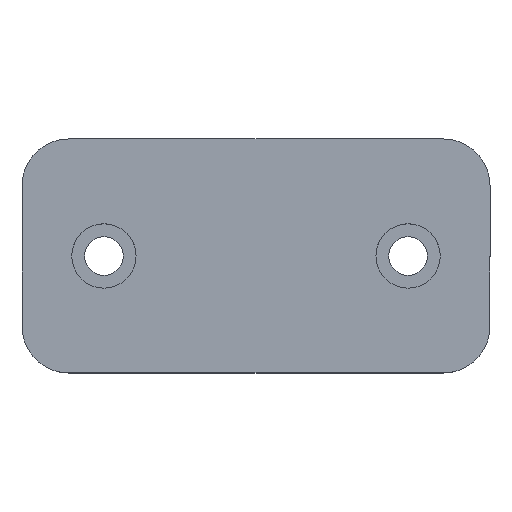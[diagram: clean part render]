
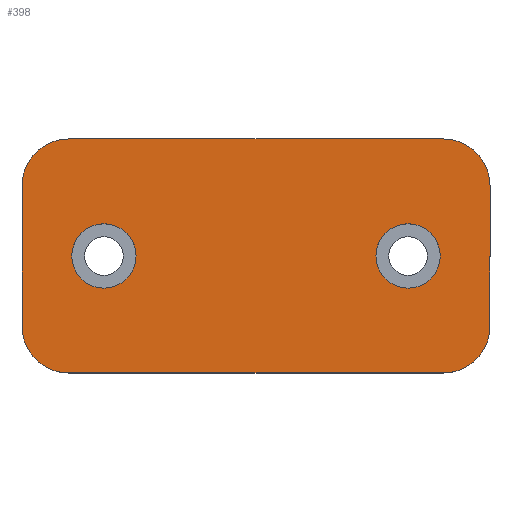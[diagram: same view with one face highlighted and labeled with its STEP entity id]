
A CAD part, top view. The second image highlights one B-rep face of the part: STEP entity #398.
In plain terms, the highlighted planar face has unit normal (0, 0, 1).
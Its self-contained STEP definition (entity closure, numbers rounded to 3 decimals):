
#1 = DIRECTION ( 'NONE',  ( -1., 0., 0. ) ) ;
#23 = EDGE_LOOP ( 'NONE', ( #273, #745 ) ) ;
#29 = LINE ( 'NONE', #239, #752 ) ;
#43 = CARTESIAN_POINT ( 'NONE',  ( 40., -12., 10.1 ) ) ;
#46 = DIRECTION ( 'NONE',  ( 0., 0., 1. ) ) ;
#50 = DIRECTION ( 'NONE',  ( 0., -1., 0. ) ) ;
#57 = CARTESIAN_POINT ( 'NONE',  ( 32., 12., 10.1 ) ) ;
#65 = EDGE_CURVE ( 'NONE', #830, #711, #294, .T. ) ;
#67 = DIRECTION ( 'NONE',  ( 0., 0., 1. ) ) ;
#87 = CIRCLE ( 'NONE', #517, 8. ) ;
#88 = ORIENTED_EDGE ( 'NONE', *, *, #607, .F. ) ;
#100 = DIRECTION ( 'NONE',  ( 0., 0., 1. ) ) ;
#102 = DIRECTION ( 'NONE',  ( 0., 1., 0. ) ) ;
#109 = EDGE_CURVE ( 'NONE', #777, #619, #255, .T. ) ;
#111 = DIRECTION ( 'NONE',  ( 1., 0., 0. ) ) ;
#113 = AXIS2_PLACEMENT_3D ( 'NONE', #279, #351, #219 ) ;
#125 = VERTEX_POINT ( 'NONE', #727 ) ;
#137 = CARTESIAN_POINT ( 'NONE',  ( -40., -12., 10.1 ) ) ;
#146 = CARTESIAN_POINT ( 'NONE',  ( -26., 0., 10.1 ) ) ;
#153 = EDGE_CURVE ( 'NONE', #125, #376, #333, .T. ) ;
#161 = AXIS2_PLACEMENT_3D ( 'NONE', #261, #67, #529 ) ;
#165 = ORIENTED_EDGE ( 'NONE', *, *, #65, .T. ) ;
#167 = FACE_OUTER_BOUND ( 'NONE', #413, .T. ) ;
#174 = VERTEX_POINT ( 'NONE', #416 ) ;
#186 = CARTESIAN_POINT ( 'NONE',  ( 32., -20., 10.1 ) ) ;
#189 = FACE_BOUND ( 'NONE', #295, .T. ) ;
#199 = ORIENTED_EDGE ( 'NONE', *, *, #153, .F. ) ;
#219 = DIRECTION ( 'NONE',  ( 1., 0., 0. ) ) ;
#223 = CIRCLE ( 'NONE', #407, 8. ) ;
#232 = CIRCLE ( 'NONE', #764, 5.5 ) ;
#239 = CARTESIAN_POINT ( 'NONE',  ( 32., -20., 10.1 ) ) ;
#255 = CIRCLE ( 'NONE', #667, 8. ) ;
#259 = DIRECTION ( 'NONE',  ( 0., 0., 1. ) ) ;
#261 = CARTESIAN_POINT ( 'NONE',  ( 26., 0., 10.1 ) ) ;
#273 = ORIENTED_EDGE ( 'NONE', *, *, #415, .F. ) ;
#279 = CARTESIAN_POINT ( 'NONE',  ( 26., 0., 10.1 ) ) ;
#294 = CIRCLE ( 'NONE', #815, 8. ) ;
#295 = EDGE_LOOP ( 'NONE', ( #199, #88 ) ) ;
#297 = DIRECTION ( 'NONE',  ( 1., 0., 0. ) ) ;
#302 = VECTOR ( 'NONE', #50, 1000. ) ;
#304 = VECTOR ( 'NONE', #390, 1000. ) ;
#306 = EDGE_CURVE ( 'NONE', #711, #698, #29, .T. ) ;
#315 = DIRECTION ( 'NONE',  ( 0., 0., 1. ) ) ;
#322 = CARTESIAN_POINT ( 'NONE',  ( 32., 20., 10.1 ) ) ;
#326 = DIRECTION ( 'NONE',  ( 1., 0., 0. ) ) ;
#332 = VERTEX_POINT ( 'NONE', #524 ) ;
#333 = CIRCLE ( 'NONE', #535, 5.5 ) ;
#342 = LINE ( 'NONE', #739, #372 ) ;
#349 = VERTEX_POINT ( 'NONE', #785 ) ;
#351 = DIRECTION ( 'NONE',  ( 0., 0., 1. ) ) ;
#353 = FACE_BOUND ( 'NONE', #23, .T. ) ;
#358 = DIRECTION ( 'NONE',  ( 1., 0., 0. ) ) ;
#370 = CARTESIAN_POINT ( 'NONE',  ( 32., -12., 10.1 ) ) ;
#372 = VECTOR ( 'NONE', #102, 1000. ) ;
#376 = VERTEX_POINT ( 'NONE', #520 ) ;
#387 = EDGE_CURVE ( 'NONE', #174, #777, #541, .T. ) ;
#389 = ORIENTED_EDGE ( 'NONE', *, *, #522, .T. ) ;
#390 = DIRECTION ( 'NONE',  ( -1., 0., 0. ) ) ;
#398 = ADVANCED_FACE ( 'NONE', ( #353, #189, #167 ), #527, .T. ) ;
#406 = DIRECTION ( 'NONE',  ( 1., 0., 0. ) ) ;
#407 = AXIS2_PLACEMENT_3D ( 'NONE', #57, #775, #518 ) ;
#411 = CARTESIAN_POINT ( 'NONE',  ( -32., 20., 10.1 ) ) ;
#413 = EDGE_LOOP ( 'NONE', ( #737, #458, #770, #389, #165, #670, #803, #681 ) ) ;
#415 = EDGE_CURVE ( 'NONE', #349, #332, #690, .T. ) ;
#416 = CARTESIAN_POINT ( 'NONE',  ( 32., 20., 10.1 ) ) ;
#458 = ORIENTED_EDGE ( 'NONE', *, *, #387, .T. ) ;
#462 = CARTESIAN_POINT ( 'NONE',  ( -32., 12., 10.1 ) ) ;
#475 = EDGE_CURVE ( 'NONE', #332, #349, #478, .T. ) ;
#478 = CIRCLE ( 'NONE', #113, 5.5 ) ;
#488 = AXIS2_PLACEMENT_3D ( 'NONE', #649, #315, #326 ) ;
#491 = VERTEX_POINT ( 'NONE', #557 ) ;
#505 = CARTESIAN_POINT ( 'NONE',  ( -40., 12., 10.1 ) ) ;
#517 = AXIS2_PLACEMENT_3D ( 'NONE', #370, #46, #111 ) ;
#518 = DIRECTION ( 'NONE',  ( 1., 0., 0. ) ) ;
#519 = VERTEX_POINT ( 'NONE', #43 ) ;
#520 = CARTESIAN_POINT ( 'NONE',  ( -31.5, 0., 10.1 ) ) ;
#522 = EDGE_CURVE ( 'NONE', #619, #830, #784, .T. ) ;
#524 = CARTESIAN_POINT ( 'NONE',  ( 20.5, 0., 10.1 ) ) ;
#527 = PLANE ( 'NONE',  #488 ) ;
#529 = DIRECTION ( 'NONE',  ( 1., 0., 0. ) ) ;
#535 = AXIS2_PLACEMENT_3D ( 'NONE', #146, #807, #406 ) ;
#538 = CARTESIAN_POINT ( 'NONE',  ( -32., -12., 10.1 ) ) ;
#541 = LINE ( 'NONE', #322, #304 ) ;
#555 = EDGE_CURVE ( 'NONE', #698, #519, #87, .T. ) ;
#557 = CARTESIAN_POINT ( 'NONE',  ( 40., 12., 10.1 ) ) ;
#596 = DIRECTION ( 'NONE',  ( 0., 0., 1. ) ) ;
#607 = EDGE_CURVE ( 'NONE', #376, #125, #232, .T. ) ;
#619 = VERTEX_POINT ( 'NONE', #505 ) ;
#621 = CARTESIAN_POINT ( 'NONE',  ( -40., -12., 10.1 ) ) ;
#646 = CARTESIAN_POINT ( 'NONE',  ( -32., -20., 10.1 ) ) ;
#649 = CARTESIAN_POINT ( 'NONE',  ( 32., 12., 10.1 ) ) ;
#667 = AXIS2_PLACEMENT_3D ( 'NONE', #462, #596, #797 ) ;
#670 = ORIENTED_EDGE ( 'NONE', *, *, #306, .T. ) ;
#679 = EDGE_CURVE ( 'NONE', #491, #174, #223, .T. ) ;
#681 = ORIENTED_EDGE ( 'NONE', *, *, #778, .T. ) ;
#690 = CIRCLE ( 'NONE', #161, 5.5 ) ;
#698 = VERTEX_POINT ( 'NONE', #186 ) ;
#711 = VERTEX_POINT ( 'NONE', #646 ) ;
#727 = CARTESIAN_POINT ( 'NONE',  ( -20.5, 0., 10.1 ) ) ;
#737 = ORIENTED_EDGE ( 'NONE', *, *, #679, .T. ) ;
#739 = CARTESIAN_POINT ( 'NONE',  ( 40., -12., 10.1 ) ) ;
#745 = ORIENTED_EDGE ( 'NONE', *, *, #475, .F. ) ;
#752 = VECTOR ( 'NONE', #297, 1000. ) ;
#758 = CARTESIAN_POINT ( 'NONE',  ( -26., 0., 10.1 ) ) ;
#764 = AXIS2_PLACEMENT_3D ( 'NONE', #758, #100, #358 ) ;
#770 = ORIENTED_EDGE ( 'NONE', *, *, #109, .T. ) ;
#775 = DIRECTION ( 'NONE',  ( 0., 0., 1. ) ) ;
#777 = VERTEX_POINT ( 'NONE', #411 ) ;
#778 = EDGE_CURVE ( 'NONE', #519, #491, #342, .T. ) ;
#784 = LINE ( 'NONE', #621, #302 ) ;
#785 = CARTESIAN_POINT ( 'NONE',  ( 31.5, 0., 10.1 ) ) ;
#797 = DIRECTION ( 'NONE',  ( 1., 0., 0. ) ) ;
#803 = ORIENTED_EDGE ( 'NONE', *, *, #555, .T. ) ;
#807 = DIRECTION ( 'NONE',  ( 0., 0., 1. ) ) ;
#815 = AXIS2_PLACEMENT_3D ( 'NONE', #538, #259, #1 ) ;
#830 = VERTEX_POINT ( 'NONE', #137 ) ;
